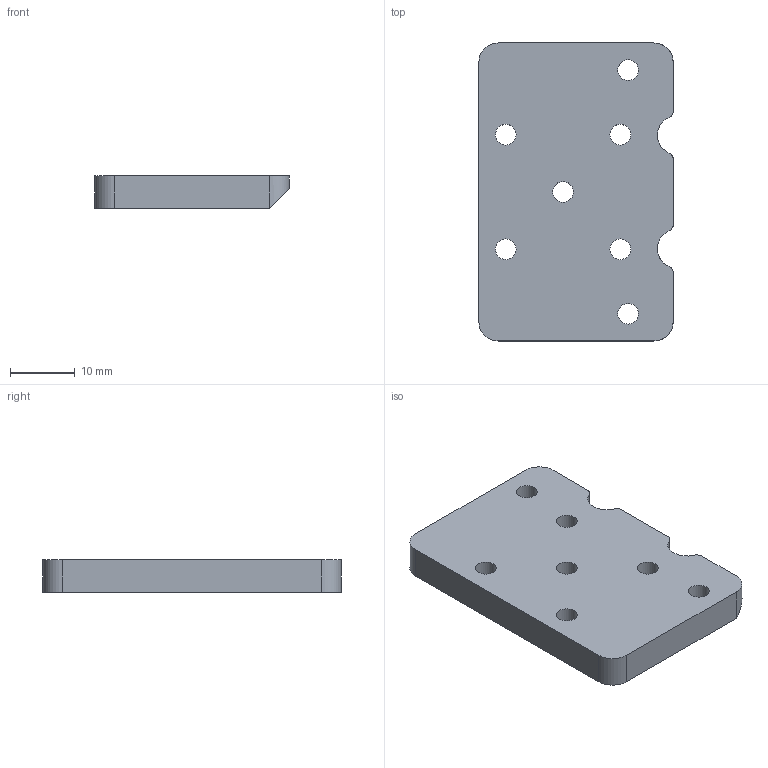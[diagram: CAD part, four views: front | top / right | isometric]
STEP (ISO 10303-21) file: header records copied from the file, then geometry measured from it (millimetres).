
FILE_DESCRIPTION(/* description */ (''),/* implementation_level */ '2;1');
FILE_NAME(/* name */ 'MP041935_00_DSD-1125_STP.stp',/* time_stamp */ '2022-11-28T12:08:21+01:00',/* author */ (''),/* organization */ (''),/* preprocessor_version */ 'ST-DEVELOPER v16.701',/* originating_system */ 'SIEMENS PLM Software NX 1946',/* authorisation */ '');
FILE_SCHEMA (('AUTOMOTIVE_DESIGN { 1 0 10303 214 3 1 1 1 }'));
Length unit declared in the file: millimetre
Products named in the file (1): ACar463023161vmx
Bounding box: 30 x 46 x 5 mm (x, y, z)
Volume: 6238.8 mm3; surface area: 3591.5 mm2
Topology: 1 solids, 1 shells, 33 faces, 84 edges, 53 vertices
Faces by surface type: cylinder 17, plane 9, cone 7
Full cylindrical faces by diameter (mm): 3.2 x7
Entity records: 997 total; most frequent: DIRECTION 179, CARTESIAN_POINT 157, ORIENTED_EDGE 140, AXIS2_PLACEMENT_3D 75, EDGE_CURVE 70, EDGE_LOOP 61, VERTEX_POINT 53, FACE_BOUND 44
